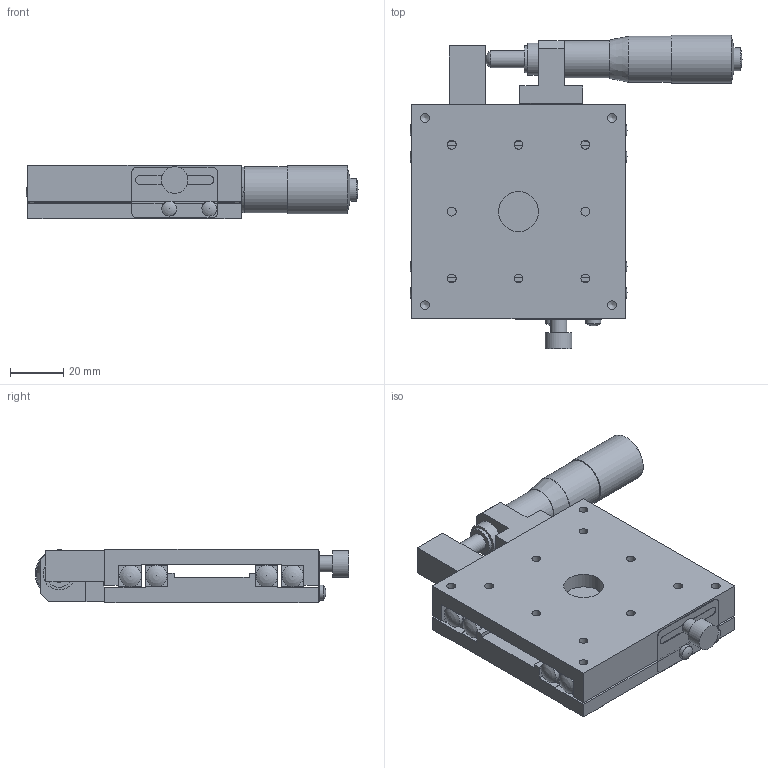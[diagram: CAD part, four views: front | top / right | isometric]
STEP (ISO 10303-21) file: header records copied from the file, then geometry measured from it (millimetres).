
FILE_DESCRIPTION( ( 'STEP AP214' ), '1' );
FILE_NAME( 'C:/Project/3D_B11-80CR-配布-070508.stp', '2007-05-08T10:42:22', ( ' ' ), ( ' ' ), 'XStep 1.0', ' ', ' ' );
FILE_SCHEMA( ( 'automotive_design' ) );
Length unit declared in the file: millimetre
Products named in the file (3): 1; 2; 3
Bounding box: 124.2 x 117.29 x 20 mm (x, y, z)
Volume: 130364.6 mm3; surface area: 48712.2 mm2
Topology: 3 solids, 3 shells, 192 faces, 539 edges, 358 vertices
Faces by surface type: plane 108, cylinder 59, cone 13, sphere 12
Full cylindrical faces by diameter (mm): 3 x1, 3.3 x16, 4.5 x4, 5.598 x2, 6 x1, 6.35 x2, 7.998 x8, 8 x4, 8.6 x1, 10 x2, 12 x1, 14 x1, 15 x1, 16.8 x1, 17.2 x1, 18 x1
Entity records: 7009 total; most frequent: CARTESIAN_POINT 948, DIRECTION 917, ORIENTED_EDGE 834, EDGE_CURVE 417, AXIS2_PLACEMENT_3D 311, VERTEX_POINT 306, LINE 295, VECTOR 295
